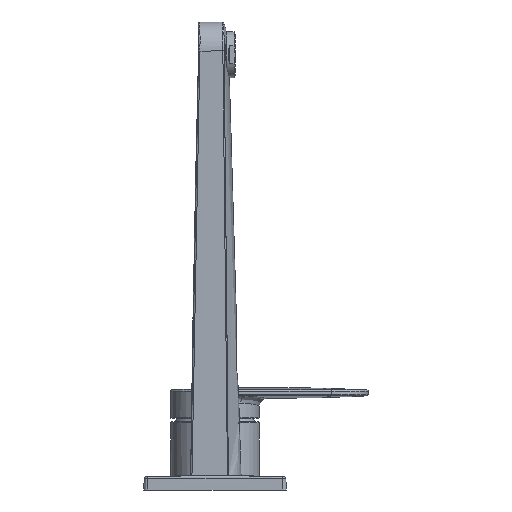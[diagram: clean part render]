
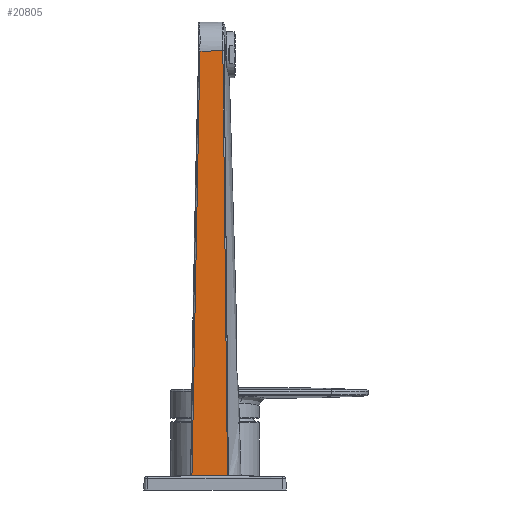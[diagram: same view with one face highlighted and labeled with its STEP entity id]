
A CAD part, left-side view. The second image highlights one B-rep face of the part: STEP entity #20805.
In plain terms, the highlighted planar face has unit normal (-1, 0, 0).
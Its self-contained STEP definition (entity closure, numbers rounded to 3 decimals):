
#1439=CARTESIAN_POINT('',(-115.,0.,-972.323));
#1440=DIRECTION('',(1.,0.,0.));
#1441=DIRECTION('',(0.,0.012,1.));
#1442=AXIS2_PLACEMENT_3D('',#1439,#1440,#1441);
#13817=CARTESIAN_POINT('',(-115.,7.834,248.01));
#13818=CARTESIAN_POINT('',(-115.,8.293,223.521));
#13819=CARTESIAN_POINT('',(-115.,9.212,174.542));
#13820=CARTESIAN_POINT('',(-115.,10.589,101.074));
#13821=CARTESIAN_POINT('',(-115.,11.508,52.095));
#13822=CARTESIAN_POINT('',(-115.,11.967,27.606));
#13824=DIRECTION('',(0.,-1.,0.009));
#13825=VECTOR('',#13824,11.906);
#13826=CARTESIAN_POINT('',(-115.,7.834,248.01));
#13827=LINE('',#13826,#13825);
#13828=CARTESIAN_POINT('',(-115.,-6.466,27.656));
#13829=CARTESIAN_POINT('',(-115.,-6.423,31.802));
#13830=CARTESIAN_POINT('',(-115.,-6.338,40.05));
#13831=CARTESIAN_POINT('',(-115.,-6.211,52.286));
#13832=CARTESIAN_POINT('',(-115.,-6.084,64.415));
#13833=CARTESIAN_POINT('',(-115.,-5.957,76.458));
#13834=CARTESIAN_POINT('',(-115.,-5.83,88.439));
#13835=CARTESIAN_POINT('',(-115.,-5.703,100.378));
#13836=CARTESIAN_POINT('',(-115.,-5.576,112.3));
#13837=CARTESIAN_POINT('',(-115.,-5.447,124.223));
#13838=CARTESIAN_POINT('',(-115.,-5.318,136.166));
#13839=CARTESIAN_POINT('',(-115.,-5.188,148.149));
#13840=CARTESIAN_POINT('',(-115.,-5.056,160.191));
#13841=CARTESIAN_POINT('',(-115.,-4.922,172.31));
#13842=CARTESIAN_POINT('',(-115.,-4.787,184.526));
#13843=CARTESIAN_POINT('',(-115.,-4.65,196.867));
#13844=CARTESIAN_POINT('',(-115.,-4.51,209.362));
#13845=CARTESIAN_POINT('',(-115.,-4.367,222.041));
#13846=CARTESIAN_POINT('',(-115.,-4.221,234.931));
#13847=CARTESIAN_POINT('',(-115.,-4.122,243.692));
#13848=CARTESIAN_POINT('',(-115.,-4.071,248.112));
#14715=CARTESIAN_POINT('',(-115.,-4.071,248.112));
#15509=CARTESIAN_POINT('',(-115.,7.834,248.01));
#17054=VERTEX_POINT('',#14715);
#17057=VERTEX_POINT('',#15509);
#17071=CARTESIAN_POINT('',(-115.,11.967,27.606));
#17072=CARTESIAN_POINT('',(-115.,-6.466,27.656));
#17073=VERTEX_POINT('',#17071);
#17074=VERTEX_POINT('',#17072);
#20791=CARTESIAN_POINT('',(-115.,2.566,148.077));
#20792=DIRECTION('',(-1.,0.,0.));
#20793=DIRECTION('',(0.,-1.,0.));
#20794=AXIS2_PLACEMENT_3D('',#20791,#20792,#20793);
#20795=PLANE('',#20794);
#20796=ORIENTED_EDGE('',*,*,#17164,.F.);
#20798=ORIENTED_EDGE('',*,*,#20797,.F.);
#20800=ORIENTED_EDGE('',*,*,#20799,.T.);
#20802=ORIENTED_EDGE('',*,*,#20801,.F.);
#20803=EDGE_LOOP('',(#20796,#20798,#20800,#20802));
#20804=FACE_OUTER_BOUND('',#20803,.F.);
#20805=ADVANCED_FACE('',(#20804),#20795,.T.);
#1443=CIRCLE('',#1442,1000.);
#13823=B_SPLINE_CURVE_WITH_KNOTS('',3,(#13817,#13818,#13819,#13820,#13821,
#13822),.UNSPECIFIED.,.F.,.F.,(4,1,1,4),(0.,0.333,
0.667,1.),.UNSPECIFIED.);
#13849=B_SPLINE_CURVE_WITH_KNOTS('',3,(#13828,#13829,#13830,#13831,#13832,
#13833,#13834,#13835,#13836,#13837,#13838,#13839,#13840,#13841,#13842,#13843,
#13844,#13845,#13846,#13847,#13848),.UNSPECIFIED.,.F.,.F.,(4,1,1,1,1,1,1,1,1,1,
1,1,1,1,1,1,1,1,4),(0.,0.056,0.111,0.167,
0.222,0.278,0.333,0.389,
0.444,0.5,0.556,0.611,0.667,
0.722,0.778,0.833,0.889,
0.944,1.),.UNSPECIFIED.);
#17164=EDGE_CURVE('',#17073,#17074,#1443,.T.);
#20797=EDGE_CURVE('',#17057,#17073,#13823,.T.);
#20799=EDGE_CURVE('',#17057,#17054,#13827,.T.);
#20801=EDGE_CURVE('',#17074,#17054,#13849,.T.);
